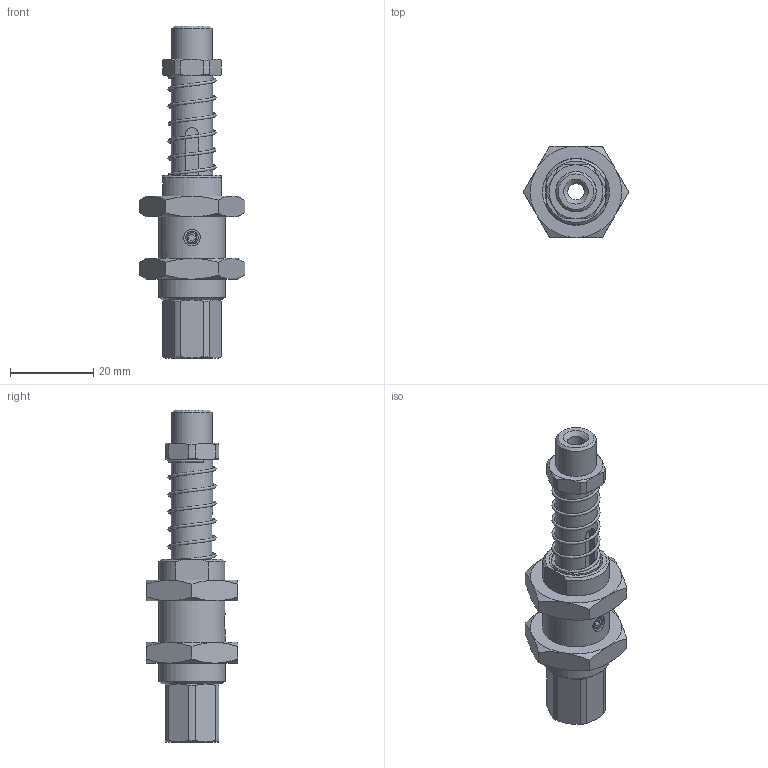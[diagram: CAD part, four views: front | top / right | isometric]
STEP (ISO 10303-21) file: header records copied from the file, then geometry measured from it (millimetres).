
FILE_DESCRIPTION((''),'2;1');
FILE_NAME('W:\Technik\Konstruktion\CAD-Daten\Vakuumkomponenten\50... - 55\50.310\50.310.stp','2011-11-18T12:28:16',('HSchanz'),(''),'Autodesk Inventor 2012','Autodesk Inventor 2012','');
FILE_SCHEMA(('CONFIG_CONTROL_DESIGN'));
Length unit declared in the file: millimetre
Products named in the file (9): 50; JSM-1012-05; DIN915-M3x4; D-090W-02
Assembly tree (10 placements, depth 2):
  50
    50
    50
    JSM-1012-05  x2
    DIN915-M3x4
    50
    50
    50  x2
    D-090W-02
Bounding box: 25.4 x 22 x 80 mm (x, y, z)
Volume: 11885 mm3; surface area: 11046.9 mm2
Topology: 10 solids, 10 shells, 164 faces, 353 edges, 216 vertices
Faces by surface type: cone 67, plane 63, cylinder 33, bspline 1
Full cylindrical faces by diameter (mm): 3 x2, 4 x2, 8.566 x2, 9.73 x2, 10 x3, 10.5 x1, 12 x4, 14.917 x2, 16 x1
Entity records: 4542 total; most frequent: CARTESIAN_POINT 1566, DIRECTION 602, ORIENTED_EDGE 524, AXIS2_PLACEMENT_3D 269, EDGE_CURVE 262, EDGE_LOOP 189, VERTEX_POINT 179, FACE_OUTER_BOUND 137
